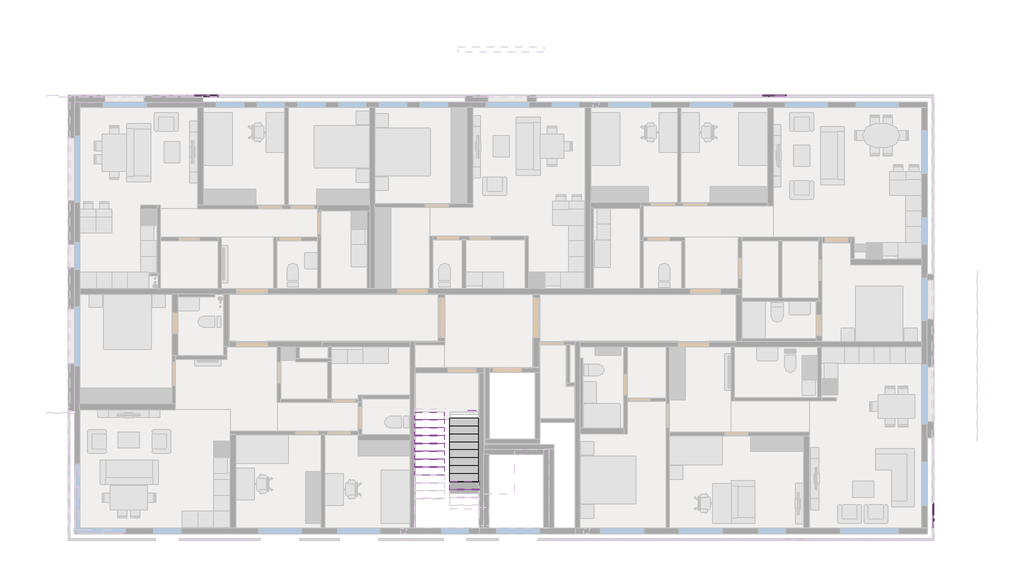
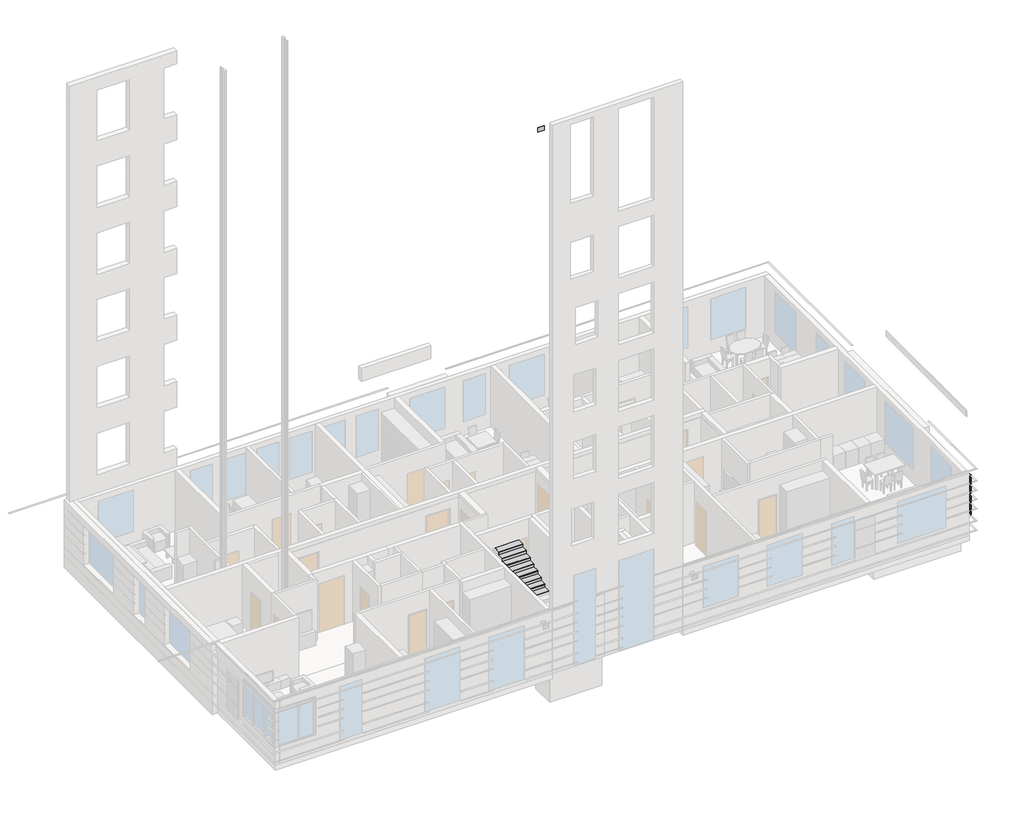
# One storey, part 11 of 11: 44 proxies.
"""IFC4 building model written with IfcOpenShell, lengths in millimetres."""

from ifc_helpers import new_model, si_unit, frame, origin, place, context, project, spatial, polyline, outline, extrude, transform, mapped, element, save
from components import generic_models_efc2a69a, generic_models_2374763e, generic_models_0ea3a2f0, generic_models_359d7c4d, generic_models_d5e938d4, generic_models_e5fd676e

model = new_model("IFC4")

# Units and contexts
model_context = context("Model", 3, world=origin())
ifc_project = project(units=[si_unit("LENGTHUNIT", "METRE", prefix="MILLI")], contexts=[model_context])

# Site, building, storey
site = spatial("IfcSite", under=ifc_project)
building = spatial("IfcBuilding", under=site)
storey = spatial("IfcBuildingStorey", under=building, Name="02_+4,400_Ж", Elevation=1200.0)

# Proxies
placement = place(None, origin())
element("IfcBuildingElementProxy", 1, Name="GM_Отделка : Подступенок", ObjectType="GM_Отделка : Подступенок", at=placement, inside=storey, context=model_context, shape_type="SweptSolid", body=[
    extrude(outline(polyline([(1170.0, 144350.0000002), (1320.0, 144350.0000002), (1320.0, 143230.0000002), (1200.0, 143230.0000002), (1200.0, 143239.9999999), (1170.0, 143239.9999999), (1170.0, 144350.0000002)])), frame((0.0, 115749.9999987, 0.0), z_axis=(0.0, 1.0, 0.0), x_axis=(0.0, 0.0, 1.0)), (0.0, 0.0, 1.0), 30.0),
])
element("IfcBuildingElementProxy", 2, Name="GM_Отделка : Ступень", ObjectType="GM_Отделка : Ступень", at=placement, inside=storey, context=model_context, shape_type="SweptSolid", body=[
    extrude(outline(polyline([(143230.0000002, 115479.9999987), (143230.0000002, 115779.9999987), (144350.0000002, 115779.9999987), (144350.0000002, 115479.9999987), (143230.0000002, 115479.9999987)])), frame((0.0, 0.0, 1320.0), z_axis=(0.0, 0.0, 1.0), x_axis=(1.0, 0.0, 0.0)), (0.0, 0.0, 1.0), 30.0),
])
element("IfcBuildingElementProxy", 3, Name="GM_Отделка : Подступенок", ObjectType="GM_Отделка : Подступенок", at=placement, inside=storey, context=model_context, shape_type="SweptSolid", body=[
    extrude(outline(polyline([(144350.0000002, 115479.9999987), (144350.0000002, 115449.9999987), (143230.0000002, 115449.9999987), (143230.0000002, 115479.9999987), (144350.0000002, 115479.9999987)])), frame((0.0, 0.0, 1320.0), z_axis=(0.0, 0.0, 1.0), x_axis=(1.0, 0.0, 0.0)), (0.0, 0.0, 1.0), 150.0),
])
element("IfcBuildingElementProxy", 4, Name="GM_Отделка : Ступень", ObjectType="GM_Отделка : Ступень", at=placement, inside=storey, context=model_context, shape_type="SweptSolid", body=[
    extrude(outline(polyline([(143230.0000002, 115179.9999987), (143230.0000002, 115479.9999987), (144350.0000002, 115479.9999987), (144350.0000002, 115179.9999987), (143230.0000002, 115179.9999987)])), frame((0.0, 0.0, 1470.0), z_axis=(0.0, 0.0, 1.0), x_axis=(1.0, 0.0, 0.0)), (0.0, 0.0, 1.0), 30.0),
])
element("IfcBuildingElementProxy", 5, Name="GM_Отделка : Подступенок", ObjectType="GM_Отделка : Подступенок", at=placement, inside=storey, context=model_context, shape_type="SweptSolid", body=[
    extrude(outline(polyline([(144350.0000002, 115179.9999987), (144350.0000002, 115149.9999987), (143230.0000002, 115149.9999987), (143230.0000002, 115179.9999987), (144350.0000002, 115179.9999987)])), frame((0.0, 0.0, 1470.0), z_axis=(0.0, 0.0, 1.0), x_axis=(1.0, 0.0, 0.0)), (0.0, 0.0, 1.0), 150.0),
])
element("IfcBuildingElementProxy", 6, Name="GM_Отделка : Ступень", ObjectType="GM_Отделка : Ступень", at=placement, inside=storey, context=model_context, shape_type="SweptSolid", body=[
    extrude(outline(polyline([(143230.0000002, 114879.9999987), (143230.0000002, 115179.9999987), (144350.0000002, 115179.9999987), (144350.0000002, 114879.9999987), (143230.0000002, 114879.9999987)])), frame((0.0, 0.0, 1620.0), z_axis=(0.0, 0.0, 1.0), x_axis=(1.0, 0.0, 0.0)), (0.0, 0.0, 1.0), 30.0),
])
element("IfcBuildingElementProxy", 7, Name="GM_Отделка : Подступенок", ObjectType="GM_Отделка : Подступенок", at=placement, inside=storey, context=model_context, shape_type="SweptSolid", body=[
    extrude(outline(polyline([(144350.0000002, 114879.9999987), (144350.0000002, 114849.9999987), (143230.0000002, 114849.9999987), (143230.0000002, 114879.9999987), (144350.0000002, 114879.9999987)])), frame((0.0, 0.0, 1620.0), z_axis=(0.0, 0.0, 1.0), x_axis=(1.0, 0.0, 0.0)), (0.0, 0.0, 1.0), 150.0),
])
element("IfcBuildingElementProxy", 8, Name="GM_Отделка : Ступень", ObjectType="GM_Отделка : Ступень", at=placement, inside=storey, context=model_context, shape_type="SweptSolid", body=[
    extrude(outline(polyline([(143230.0000002, 114579.9999987), (143230.0000002, 114879.9999987), (144350.0000002, 114879.9999987), (144350.0000002, 114579.9999987), (143230.0000002, 114579.9999987)])), frame((0.0, 0.0, 1770.0), z_axis=(0.0, 0.0, 1.0), x_axis=(1.0, 0.0, 0.0)), (0.0, 0.0, 1.0), 30.0),
])
element("IfcBuildingElementProxy", 9, Name="GM_Отделка : Подступенок", ObjectType="GM_Отделка : Подступенок", at=placement, inside=storey, context=model_context, shape_type="SweptSolid", body=[
    extrude(outline(polyline([(144350.0000002, 114579.9999987), (144350.0000002, 114549.9999987), (143230.0000002, 114549.9999987), (143230.0000002, 114579.9999987), (144350.0000002, 114579.9999987)])), frame((0.0, 0.0, 1770.0), z_axis=(0.0, 0.0, 1.0), x_axis=(1.0, 0.0, 0.0)), (0.0, 0.0, 1.0), 150.0),
])
element("IfcBuildingElementProxy", 10, Name="GM_Отделка : Ступень", ObjectType="GM_Отделка : Ступень", at=placement, inside=storey, context=model_context, shape_type="SweptSolid", body=[
    extrude(outline(polyline([(143230.0000002, 114279.9999987), (143230.0000002, 114579.9999987), (144350.0000002, 114579.9999987), (144350.0000002, 114279.9999987), (143230.0000002, 114279.9999987)])), frame((0.0, 0.0, 1920.0), z_axis=(0.0, 0.0, 1.0), x_axis=(1.0, 0.0, 0.0)), (0.0, 0.0, 1.0), 30.0),
])
element("IfcBuildingElementProxy", 11, Name="GM_Отделка : Подступенок", ObjectType="GM_Отделка : Подступенок", at=placement, inside=storey, context=model_context, shape_type="SweptSolid", body=[
    extrude(outline(polyline([(144350.0000002, 114279.9999987), (144350.0000002, 114249.9999987), (143230.0000002, 114249.9999987), (143230.0000002, 114279.9999987), (144350.0000002, 114279.9999987)])), frame((0.0, 0.0, 1920.0), z_axis=(0.0, 0.0, 1.0), x_axis=(1.0, 0.0, 0.0)), (0.0, 0.0, 1.0), 150.0),
])
element("IfcBuildingElementProxy", 12, Name="GM_Отделка : Ступень", ObjectType="GM_Отделка : Ступень", at=placement, inside=storey, context=model_context, shape_type="SweptSolid", body=[
    extrude(outline(polyline([(143230.0000002, 113979.9999987), (143230.0000002, 114279.9999987), (144350.0000002, 114279.9999987), (144350.0000002, 113979.9999987), (143230.0000002, 113979.9999987)])), frame((0.0, 0.0, 2070.0), z_axis=(0.0, 0.0, 1.0), x_axis=(1.0, 0.0, 0.0)), (0.0, 0.0, 1.0), 30.0),
])
element("IfcBuildingElementProxy", 13, Name="GM_Отделка : Подступенок", ObjectType="GM_Отделка : Подступенок", at=placement, inside=storey, context=model_context, shape_type="SweptSolid", body=[
    extrude(outline(polyline([(144350.0000002, 113979.9999987), (144350.0000002, 113949.9999987), (143230.0000002, 113949.9999987), (143230.0000002, 113979.9999987), (144350.0000002, 113979.9999987)])), frame((0.0, 0.0, 2070.0), z_axis=(0.0, 0.0, 1.0), x_axis=(1.0, 0.0, 0.0)), (0.0, 0.0, 1.0), 150.0),
])
element("IfcBuildingElementProxy", 14, Name="GM_Отделка : Ступень", ObjectType="GM_Отделка : Ступень", at=placement, inside=storey, context=model_context, shape_type="SweptSolid", body=[
    extrude(outline(polyline([(143230.0000002, 113679.9999987), (143230.0000002, 113979.9999987), (144350.0000002, 113979.9999987), (144350.0000002, 113679.9999987), (143230.0000002, 113679.9999987)])), frame((0.0, 0.0, 2220.0), z_axis=(0.0, 0.0, 1.0), x_axis=(1.0, 0.0, 0.0)), (0.0, 0.0, 1.0), 30.0),
])
element("IfcBuildingElementProxy", 15, Name="GM_Отделка : Подступенок", ObjectType="GM_Отделка : Подступенок", at=placement, inside=storey, context=model_context, shape_type="SweptSolid", body=[
    extrude(outline(polyline([(144350.0000002, 113679.9999987), (144350.0000002, 113649.9999987), (143230.0000002, 113649.9999987), (143230.0000002, 113679.9999987), (144350.0000002, 113679.9999987)])), frame((0.0, 0.0, 2220.0), z_axis=(0.0, 0.0, 1.0), x_axis=(1.0, 0.0, 0.0)), (0.0, 0.0, 1.0), 150.0),
])
element("IfcBuildingElementProxy", 16, Name="GM_Отделка : Ступень", ObjectType="GM_Отделка : Ступень", at=placement, inside=storey, context=model_context, shape_type="SweptSolid", body=[
    extrude(outline(polyline([(143230.0000002, 113379.9999987), (143230.0000002, 113679.9999987), (144350.0000002, 113679.9999987), (144350.0000002, 113379.9999987), (143230.0000002, 113379.9999987)])), frame((0.0, 0.0, 2370.0), z_axis=(0.0, 0.0, 1.0), x_axis=(1.0, 0.0, 0.0)), (0.0, 0.0, 1.0), 30.0),
])
element("IfcBuildingElementProxy", 17, Name="GM_Отделка : Подступенок", ObjectType="GM_Отделка : Подступенок", at=placement, inside=storey, context=model_context, shape_type="SweptSolid", body=[
    extrude(outline(polyline([(144350.0000002, 113379.9999987), (144350.0000002, 113349.9999987), (143230.0000002, 113349.9999987), (143230.0000002, 113379.9999987), (144350.0000002, 113379.9999987)])), frame((0.0, 0.0, 2370.0), z_axis=(0.0, 0.0, 1.0), x_axis=(1.0, 0.0, 0.0)), (0.0, 0.0, 1.0), 150.0),
])
element("IfcBuildingElementProxy", 18, Name="GM_Отделка : Ступень", ObjectType="GM_Отделка : Ступень", at=placement, inside=storey, context=model_context, shape_type="SweptSolid", body=[
    extrude(outline(polyline([(143230.0000002, 113079.9999987), (143230.0000002, 113379.9999987), (144350.0000002, 113379.9999987), (144350.0000002, 113079.9999987), (143230.0000002, 113079.9999987)])), frame((0.0, 0.0, 2520.0), z_axis=(0.0, 0.0, 1.0), x_axis=(1.0, 0.0, 0.0)), (0.0, 0.0, 1.0), 30.0),
])
element("IfcBuildingElementProxy", 19, Name="GM_Отделка : Подступенок", ObjectType="GM_Отделка : Подступенок", at=placement, inside=storey, context=model_context, shape_type="SweptSolid", body=[
    extrude(outline(polyline([(144350.0000002, 113079.9999987), (144350.0000002, 113049.9999987), (143230.0000002, 113049.9999987), (143230.0000002, 113079.9999987), (144350.0000002, 113079.9999987)])), frame((0.0, 0.0, 2520.0), z_axis=(0.0, 0.0, 1.0), x_axis=(1.0, 0.0, 0.0)), (0.0, 0.0, 1.0), 150.0),
])
element("IfcBuildingElementProxy", 20, Name="GM_Отделка : Ступень", ObjectType="GM_Отделка : Ступень", at=placement, inside=storey, context=model_context, shape_type="SweptSolid", body=[
    extrude(outline(polyline([(143030.0000001, 115719.9999987), (141910.0000001, 115719.9999987), (141910.0000001, 116019.9999987), (143019.9999999, 116019.9999987), (143019.9999999, 115749.9999989), (143030.0000001, 115749.9999989), (143030.0000001, 115719.9999987)])), frame((0.0, 0.0, 4470.0), z_axis=(0.0, 0.0, 1.0), x_axis=(1.0, 0.0, 0.0)), (0.0, 0.0, 1.0), 30.0),
])
generic_models_shape = generic_models_efc2a69a(model_context)
element("IfcBuildingElementProxy", 21, Name="GM_Отделка : Подступенок", ObjectType="GM_Отделка : Подступенок", at=placement, inside=storey, context=model_context, shape_type="MappedRepresentation", body=[
    mapped(generic_models_shape, transform((144090.0000002, 116069.9999987, 24650.0), x_axis=(0.0, 0.0, 1.0), y_axis=(1.0, 0.0, 0.0), z_axis=(0.0, 1.0, 0.0))),
])
generic_models_2_shape = generic_models_2374763e(model_context)
element("IfcBuildingElementProxy", 22, Name="GM_Панель фасадная : Тип 1", ObjectType="GM_Панель фасадная : Тип 1", at=placement, inside=storey, context=model_context, shape_type="MappedRepresentation", body=[
    mapped(generic_models_2_shape, transform((155905.0000001, 127924.9999987, 2490.0), x_axis=(1.0, 0.0, 0.0), y_axis=(0.0, 1.0, 0.0), z_axis=(0.0, 0.0, 1.0))),
])
element("IfcBuildingElementProxy", 23, Name="GM_Панель фасадная : Тип 1", ObjectType="GM_Панель фасадная : Тип 1", at=placement, inside=storey, context=model_context, shape_type="MappedRepresentation", body=[
    mapped(generic_models_2_shape, transform((134305.0000001, 127924.9999987, 2490.0), x_axis=(1.0, 0.0, 0.0), y_axis=(0.0, 1.0, 0.0), z_axis=(0.0, 0.0, 1.0))),
])
element("IfcBuildingElementProxy", 24, Name="GM_Панель фасадная : Тип 1", ObjectType="GM_Панель фасадная : Тип 1", at=placement, inside=storey, context=model_context, shape_type="MappedRepresentation", body=[
    mapped(generic_models_2_shape, transform((161505.0000001, 111774.9999987, 2490.0), x_axis=(0.0, -1.0, 0.0), y_axis=(1.0, 0.0, 0.0), z_axis=(0.0, 0.0, 1.0))),
])
generic_models_3_shape = generic_models_0ea3a2f0(model_context)
element("IfcBuildingElementProxy", 25, Name="GM_Панель фасадная : Тип 1", ObjectType="GM_Панель фасадная : Тип 1", at=placement, inside=storey, context=model_context, shape_type="MappedRepresentation", body=[
    mapped(generic_models_3_shape, transform((155905.0000001, 127924.9999987, 3400.0), x_axis=(1.0, 0.0, 0.0), y_axis=(0.0, 1.0, 0.0), z_axis=(0.0, 0.0, 1.0))),
])
element("IfcBuildingElementProxy", 26, Name="GM_Панель фасадная : Тип 1", ObjectType="GM_Панель фасадная : Тип 1", at=placement, inside=storey, context=model_context, shape_type="MappedRepresentation", body=[
    mapped(generic_models_3_shape, transform((134305.0000001, 127924.9999987, 3400.0), x_axis=(1.0, 0.0, 0.0), y_axis=(0.0, 1.0, 0.0), z_axis=(0.0, 0.0, 1.0))),
])
element("IfcBuildingElementProxy", 27, Name="GM_Панель фасадная : Тип 1", ObjectType="GM_Панель фасадная : Тип 1", at=placement, inside=storey, context=model_context, shape_type="MappedRepresentation", body=[
    mapped(generic_models_3_shape, transform((161505.0000001, 111774.9999987, 3400.0), x_axis=(0.0, -1.0, 0.0), y_axis=(1.0, 0.0, 0.0), z_axis=(0.0, 0.0, 1.0))),
])
generic_models_4_shape = generic_models_359d7c4d(model_context)
element("IfcBuildingElementProxy", 28, Name="GM_Панель фасадная : Тип 1", ObjectType="GM_Панель фасадная : Тип 1", at=placement, inside=storey, context=model_context, shape_type="MappedRepresentation", body=[
    mapped(generic_models_4_shape, transform((155905.0000001, 127924.9999987, 1885.0), x_axis=(1.0, 0.0, 0.0), y_axis=(0.0, 1.0, 0.0), z_axis=(0.0, 0.0, 1.0))),
])
element("IfcBuildingElementProxy", 29, Name="GM_Панель фасадная : Тип 1", ObjectType="GM_Панель фасадная : Тип 1", at=placement, inside=storey, context=model_context, shape_type="MappedRepresentation", body=[
    mapped(generic_models_4_shape, transform((134305.0000001, 127924.9999987, 1885.0), x_axis=(1.0, 0.0, 0.0), y_axis=(0.0, 1.0, 0.0), z_axis=(0.0, 0.0, 1.0))),
])
element("IfcBuildingElementProxy", 30, Name="GM_Панель фасадная : Тип 1", ObjectType="GM_Панель фасадная : Тип 1", at=placement, inside=storey, context=model_context, shape_type="MappedRepresentation", body=[
    mapped(generic_models_4_shape, transform((161505.0000001, 111774.9999987, 1885.0), x_axis=(0.0, -1.0, 0.0), y_axis=(1.0, 0.0, 0.0), z_axis=(0.0, 0.0, 1.0))),
])
generic_models_5_shape = generic_models_d5e938d4(model_context)
element("IfcBuildingElementProxy", 31, Name="GM_Отделка : Подступенок", ObjectType="GM_Отделка : Подступенок", at=placement, inside=storey, context=model_context, shape_type="MappedRepresentation", body=[
    mapped(generic_models_5_shape, transform((142882.5000001, 113949.9999987, 3770.0), x_axis=(0.0, 0.0, 1.0), y_axis=(-1.0, 0.0, 0.0), z_axis=(0.0, -1.0, 0.0))),
])
element("IfcBuildingElementProxy", 32, Name="GM_Отделка : Подступенок", ObjectType="GM_Отделка : Подступенок", at=placement, inside=storey, context=model_context, shape_type="MappedRepresentation", body=[
    mapped(generic_models_5_shape, transform((142882.5000001, 114249.9999987, 3920.0), x_axis=(0.0, 0.0, 1.0), y_axis=(-1.0, 0.0, 0.0), z_axis=(0.0, -1.0, 0.0))),
])
element("IfcBuildingElementProxy", 33, Name="GM_Отделка : Подступенок", ObjectType="GM_Отделка : Подступенок", at=placement, inside=storey, context=model_context, shape_type="MappedRepresentation", body=[
    mapped(generic_models_5_shape, transform((142882.5000001, 114549.9999987, 4070.0), x_axis=(0.0, 0.0, 1.0), y_axis=(-1.0, 0.0, 0.0), z_axis=(0.0, -1.0, 0.0))),
])
element("IfcBuildingElementProxy", 34, Name="GM_Отделка : Подступенок", ObjectType="GM_Отделка : Подступенок", at=placement, inside=storey, context=model_context, shape_type="MappedRepresentation", body=[
    mapped(generic_models_5_shape, transform((142882.5000001, 114849.9999987, 4220.0), x_axis=(0.0, 0.0, 1.0), y_axis=(-1.0, 0.0, 0.0), z_axis=(0.0, -1.0, 0.0))),
])
element("IfcBuildingElementProxy", 35, Name="GM_Отделка : Подступенок", ObjectType="GM_Отделка : Подступенок", at=placement, inside=storey, context=model_context, shape_type="MappedRepresentation", body=[
    mapped(generic_models_5_shape, transform((142882.5000001, 115149.9999987, 4370.0), x_axis=(0.0, 0.0, 1.0), y_axis=(-1.0, 0.0, 0.0), z_axis=(0.0, -1.0, 0.0))),
])
element("IfcBuildingElementProxy", 36, Name="GM_Отделка : Подступенок", ObjectType="GM_Отделка : Подступенок", at=placement, inside=storey, context=model_context, shape_type="MappedRepresentation", body=[
    mapped(generic_models_5_shape, transform((142882.5000001, 115449.9999987, 4520.0), x_axis=(0.0, 0.0, 1.0), y_axis=(-1.0, 0.0, 0.0), z_axis=(0.0, -1.0, 0.0))),
])
element("IfcBuildingElementProxy", 37, Name="GM_Отделка : Подступенок", ObjectType="GM_Отделка : Подступенок", at=placement, inside=storey, context=model_context, shape_type="MappedRepresentation", body=[
    mapped(generic_models_5_shape, transform((142882.5000001, 115749.9999987, 4670.0), x_axis=(0.0, 0.0, 1.0), y_axis=(-1.0, 0.0, 0.0), z_axis=(0.0, -1.0, 0.0))),
])
generic_models_6_shape = generic_models_e5fd676e(model_context)
element("IfcBuildingElementProxy", 38, Name="GM_Отделка : Ступень", ObjectType="GM_Отделка : Ступень", at=placement, inside=storey, context=model_context, shape_type="MappedRepresentation", body=[
    mapped(generic_models_6_shape, transform((142882.5000001, 113969.9999987, 3420.0), x_axis=(0.0, 1.0, 0.0), y_axis=(-1.0, 0.0, 0.0), z_axis=(0.0, 0.0, 1.0))),
])
element("IfcBuildingElementProxy", 39, Name="GM_Отделка : Ступень", ObjectType="GM_Отделка : Ступень", at=placement, inside=storey, context=model_context, shape_type="MappedRepresentation", body=[
    mapped(generic_models_6_shape, transform((142882.5000001, 114269.9999987, 3570.0), x_axis=(0.0, 1.0, 0.0), y_axis=(-1.0, 0.0, 0.0), z_axis=(0.0, 0.0, 1.0))),
])
element("IfcBuildingElementProxy", 40, Name="GM_Отделка : Ступень", ObjectType="GM_Отделка : Ступень", at=placement, inside=storey, context=model_context, shape_type="MappedRepresentation", body=[
    mapped(generic_models_6_shape, transform((142882.5000001, 114569.9999987, 3720.0), x_axis=(0.0, 1.0, 0.0), y_axis=(-1.0, 0.0, 0.0), z_axis=(0.0, 0.0, 1.0))),
])
element("IfcBuildingElementProxy", 41, Name="GM_Отделка : Ступень", ObjectType="GM_Отделка : Ступень", at=placement, inside=storey, context=model_context, shape_type="MappedRepresentation", body=[
    mapped(generic_models_6_shape, transform((142882.5000001, 114869.9999987, 3870.0), x_axis=(0.0, 1.0, 0.0), y_axis=(-1.0, 0.0, 0.0), z_axis=(0.0, 0.0, 1.0))),
])
element("IfcBuildingElementProxy", 42, Name="GM_Отделка : Ступень", ObjectType="GM_Отделка : Ступень", at=placement, inside=storey, context=model_context, shape_type="MappedRepresentation", body=[
    mapped(generic_models_6_shape, transform((142882.5000001, 115169.9999987, 4020.0), x_axis=(0.0, 1.0, 0.0), y_axis=(-1.0, 0.0, 0.0), z_axis=(0.0, 0.0, 1.0))),
])
element("IfcBuildingElementProxy", 43, Name="GM_Отделка : Ступень", ObjectType="GM_Отделка : Ступень", at=placement, inside=storey, context=model_context, shape_type="MappedRepresentation", body=[
    mapped(generic_models_6_shape, transform((142882.5000001, 115469.9999987, 4170.0), x_axis=(0.0, 1.0, 0.0), y_axis=(-1.0, 0.0, 0.0), z_axis=(0.0, 0.0, 1.0))),
])
element("IfcBuildingElementProxy", 44, Name="GM_Отделка : Ступень", ObjectType="GM_Отделка : Ступень", at=placement, inside=storey, context=model_context, shape_type="MappedRepresentation", body=[
    mapped(generic_models_6_shape, transform((142882.5000001, 115769.9999987, 4320.0), x_axis=(0.0, 1.0, 0.0), y_axis=(-1.0, 0.0, 0.0), z_axis=(0.0, 0.0, 1.0))),
])

save(model, "model.ifc")
